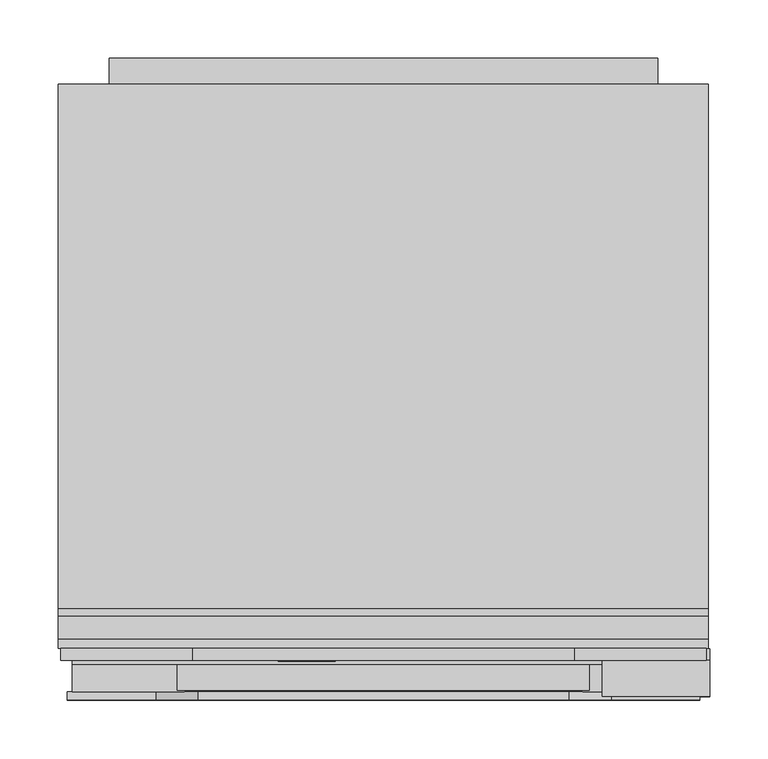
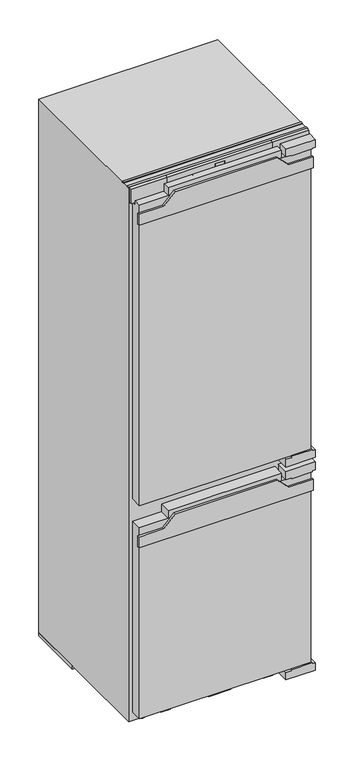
"""IFC4 building model written with IfcOpenShell, lengths in millimetres: proxy geometry, 12102600_ROK_KFNS7734D : 38773406_ROK_12102600_KFNS7734D."""

from ifc_helpers import new_model, si_unit, point, frame, frame_2d, origin, origin_with_axes, place, context, project, spatial, polyline, circle_curve, ellipse_curve, trimmed, segment, composite_curve, outline, extrude, faceted_brep, source, transform, mapped, element, save
from ifc_brep_helpers import plane_surface, cylinder_surface, revolved_surface, extruded_surface, advanced_brep


def specialty_equipment_6a6e2b0e(model_context):
    return source(origin(), model_context, "Body", "SolidModel", [
        advanced_brep(
        [(-46.64, 33.0, 1742.896), (-46.64, 33.0, 1743.704), (-41.288, 33.0, 1743.704), (-50.6, 33.0, 1743.704), (-48.4, 33.0, 1741.0), (-41.424, 33.0, 1742.896), (-43.84, 33.0, 1742.896), (-45.744, 33.0, 1742.0), (-46.64, 33.0, 1744.728), (-46.64, 33.0, 1745.6), (-45.272, 33.0, 1745.6), (-45.272, 33.0, 1744.728), (-46.64, 34.0, 1742.896), (-45.744, 34.0, 1742.0), (-43.84, 34.0, 1742.896), (-41.424, 34.0, 1742.896), (-48.4, 34.0, 1741.0), (-50.6, 34.0, 1743.704), (-41.288, 34.0, 1743.704), (-46.64, 34.0, 1743.704), (-46.64, 34.0, 1744.728), (-45.272, 34.0, 1744.728), (-45.272, 34.0, 1745.6), (-46.64, 34.0, 1745.6)],
        [
            (0, 1),
            (1, 2),
            (2, 3, ellipse_curve(frame((-45.944, 33.0, 1743.704), z_axis=(0.0, -1.0, 0.0), x_axis=(-1.0, 0.0, 0.0)), 4.656, 3.848)),
            (3, 4, circle_curve(frame((-47.5039564, 33.0, 1743.976), z_axis=(0.0, -1.0, 0.0), x_axis=(0.0, 0.0, -1.0)), 3.1079688)),
            (4, 5, circle_curve(frame((-46.0372064, 33.0, 1746.088), z_axis=(0.0, -1.0, 0.0), x_axis=(0.0, 0.0, -1.0)), 5.6098607)),
            (5, 6),
            (6, 7, circle_curve(frame((-45.3529412, 33.0, 1743.64), z_axis=(0.0, 1.0, 0.0), x_axis=(0.0, 0.0, -1.0)), 1.6859795)),
            (7, 0, circle_curve(frame((-45.744, 33.0, 1742.896), z_axis=(0.0, 1.0, 0.0), x_axis=(0.0, 0.0, -1.0)), 0.896)),
            (8, 9),
            (9, 10, circle_curve(frame((-45.956, 33.0, 1745.6), z_axis=(0.0, 1.0, 0.0), x_axis=(0.0, 0.0, -1.0)), 0.684)),
            (10, 11),
            (11, 8),
            (12, 13, circle_curve(frame((-45.744, 34.0, 1742.896), z_axis=(0.0, -1.0, 0.0), x_axis=(0.0, 0.0, -1.0)), 0.896)),
            (13, 14, circle_curve(frame((-45.3529412, 34.0, 1743.64), z_axis=(0.0, -1.0, 0.0), x_axis=(0.0, 0.0, -1.0)), 1.6859795)),
            (14, 15),
            (15, 16, circle_curve(frame((-46.0372064, 34.0, 1746.088), z_axis=(0.0, 1.0, 0.0), x_axis=(0.0, 0.0, -1.0)), 5.6098607)),
            (16, 17, circle_curve(frame((-47.5039564, 34.0, 1743.976), z_axis=(0.0, 1.0, 0.0), x_axis=(0.0, 0.0, -1.0)), 3.1079688)),
            (17, 18, ellipse_curve(frame((-45.944, 34.0, 1743.704), z_axis=(0.0, 1.0, 0.0), x_axis=(-1.0, 0.0, 0.0)), 4.656, 3.848)),
            (18, 19),
            (19, 12),
            (20, 21),
            (21, 22),
            (22, 23, circle_curve(frame((-45.956, 34.0, 1745.6), z_axis=(0.0, -1.0, 0.0), x_axis=(0.0, 0.0, -1.0)), 0.684)),
            (23, 20),
            (0, 12),
            (19, 1),
            (18, 2),
            (5, 15),
            (14, 6),
            (17, 3),
            (13, 7),
            (16, 4),
            (8, 20),
            (23, 9),
            (22, 10),
            (21, 11),
        ],
        [
            plane_surface(frame((-46.64, 33.0, 1743.704), z_axis=(0.0, -1.0, 0.0), x_axis=(0.0, 0.0, 1.0))),
            plane_surface(frame((-46.64, 34.0, 1743.704), z_axis=(0.0, 1.0, 0.0), x_axis=(0.0, 0.0, -1.0))),
            plane_surface(frame((-46.64, 33.0, 1742.896), z_axis=(1.0, 0.0, 0.0), x_axis=(0.0, 1.0, 0.0))),
            plane_surface(frame((-46.64, 33.0, 1743.704), z_axis=(0.0, 0.0, -1.0), x_axis=(0.0, 1.0, 0.0))),
            plane_surface(frame((-41.424, 33.0, 1742.896), z_axis=(0.0, 0.0, 1.0), x_axis=(0.0, 1.0, 0.0))),
            extruded_surface(trimmed(ellipse_curve(frame((-45.944, 35.0, 1743.704), z_axis=(0.0, -1.0, 0.0), x_axis=(-1.0, 0.0, 0.0)), 4.656, 3.848), [point((-41.288, 35.0, 1743.704))], [point((-50.6, 35.0, 1743.704))], True, "CARTESIAN"), (0.0, -1.0, 0.0), 1.0),
            revolved_surface(polyline([(-45.3529412, 34.0, 1741.9540205), (-45.3529412, 33.0, 1741.9540205)]), (-45.3529412, 34.0, 1743.64), (0.0, 1.0, 0.0)),
            revolved_surface(polyline([(-45.744, 34.0, 1742.0), (-45.744, 33.0, 1742.0)]), (-45.744, 34.0, 1742.896), (0.0, 1.0, 0.0)),
            cylinder_surface(frame((-47.5039564, 34.0, 1743.976), z_axis=(0.0, -1.0, 0.0), x_axis=(0.0, 0.0, -1.0)), 3.1079688),
            cylinder_surface(frame((-46.0372064, 34.0, 1746.088), z_axis=(0.0, -1.0, 0.0), x_axis=(0.0, 0.0, -1.0)), 5.6098607),
            plane_surface(frame((-46.64, 33.0, 1744.728), z_axis=(1.0, 0.0, 0.0), x_axis=(0.0, 1.0, 0.0))),
            revolved_surface(polyline([(-45.956, 34.0, 1744.916), (-45.956, 33.0, 1744.916)]), (-45.956, 34.0, 1745.6), (0.0, 1.0, 0.0)),
            plane_surface(frame((-45.272, 33.0, 1745.6), z_axis=(-1.0, 0.0, 0.0), x_axis=(0.0, 1.0, 0.0))),
            plane_surface(frame((-45.272, 33.0, 1744.728), z_axis=(0.0, 0.0, 1.0), x_axis=(0.0, 1.0, 0.0))),
        ],
        [
            (0, [[1, 2, 3, 4, 5, 6, 7, 8], [9, 10, 11, 12]]),
            (1, [[13, 14, 15, 16, 17, 18, 19, 20], [21, 22, 23, 24]]),
            (2, [[-1, 25, -20, 26]]),
            (3, [[-2, -26, -19, 27]]),
            (4, [[-6, 28, -15, 29]]),
            (5, [[-3, -27, -18, 30]]),
            (6, [[-7, -29, -14, 31]]),
            (7, [[-8, -31, -13, -25]]),
            (8, [[-4, -30, -17, 32]]),
            (9, [[-5, -32, -16, -28]]),
            (10, [[-9, 33, -24, 34]]),
            (11, [[-10, -34, -23, 35]]),
            (12, [[-11, -35, -22, 36]]),
            (13, [[-12, -36, -21, -33]]),
        ],
    ),
        advanced_brep(
        [(-63.336, 33.0, 1742.896), (-63.336, 33.0, 1743.704), (-57.984, 33.0, 1743.704), (-67.296, 33.0, 1743.704), (-65.096, 33.0, 1741.0), (-58.12, 33.0, 1742.896), (-60.536, 33.0, 1742.896), (-62.44, 33.0, 1742.0), (-63.336, 33.0, 1744.728), (-63.336, 33.0, 1745.6), (-61.968, 33.0, 1745.6), (-61.968, 33.0, 1744.728), (-63.336, 34.0, 1742.896), (-62.44, 34.0, 1742.0), (-60.536, 34.0, 1742.896), (-58.12, 34.0, 1742.896), (-65.096, 34.0, 1741.0), (-67.296, 34.0, 1743.704), (-57.984, 34.0, 1743.704), (-63.336, 34.0, 1743.704), (-63.336, 34.0, 1744.728), (-61.968, 34.0, 1744.728), (-61.968, 34.0, 1745.6), (-63.336, 34.0, 1745.6)],
        [
            (0, 1),
            (1, 2),
            (2, 3, ellipse_curve(frame((-62.64, 33.0, 1743.704), z_axis=(0.0, -1.0, 0.0), x_axis=(-1.0, 0.0, 0.0)), 4.656, 3.848)),
            (3, 4, circle_curve(frame((-64.1999564, 33.0, 1743.976), z_axis=(0.0, -1.0, 0.0), x_axis=(0.0, 0.0, -1.0)), 3.1079688)),
            (4, 5, circle_curve(frame((-62.7332064, 33.0, 1746.088), z_axis=(0.0, -1.0, 0.0), x_axis=(0.0, 0.0, -1.0)), 5.6098607)),
            (5, 6),
            (6, 7, circle_curve(frame((-62.0489412, 33.0, 1743.64), z_axis=(0.0, 1.0, 0.0), x_axis=(0.0, 0.0, -1.0)), 1.6859795)),
            (7, 0, circle_curve(frame((-62.44, 33.0, 1742.896), z_axis=(0.0, 1.0, 0.0), x_axis=(0.0, 0.0, -1.0)), 0.896)),
            (8, 9),
            (9, 10, circle_curve(frame((-62.652, 33.0, 1745.6), z_axis=(0.0, 1.0, 0.0), x_axis=(0.0, 0.0, -1.0)), 0.684)),
            (10, 11),
            (11, 8),
            (12, 13, circle_curve(frame((-62.44, 34.0, 1742.896), z_axis=(0.0, -1.0, 0.0), x_axis=(0.0, 0.0, -1.0)), 0.896)),
            (13, 14, circle_curve(frame((-62.0489412, 34.0, 1743.64), z_axis=(0.0, -1.0, 0.0), x_axis=(0.0, 0.0, -1.0)), 1.6859795)),
            (14, 15),
            (15, 16, circle_curve(frame((-62.7332064, 34.0, 1746.088), z_axis=(0.0, 1.0, 0.0), x_axis=(0.0, 0.0, -1.0)), 5.6098607)),
            (16, 17, circle_curve(frame((-64.1999564, 34.0, 1743.976), z_axis=(0.0, 1.0, 0.0), x_axis=(0.0, 0.0, -1.0)), 3.1079688)),
            (17, 18, ellipse_curve(frame((-62.64, 34.0, 1743.704), z_axis=(0.0, 1.0, 0.0), x_axis=(-1.0, 0.0, 0.0)), 4.656, 3.848)),
            (18, 19),
            (19, 12),
            (20, 21),
            (21, 22),
            (22, 23, circle_curve(frame((-62.652, 34.0, 1745.6), z_axis=(0.0, -1.0, 0.0), x_axis=(0.0, 0.0, -1.0)), 0.684)),
            (23, 20),
            (0, 12),
            (19, 1),
            (18, 2),
            (5, 15),
            (14, 6),
            (17, 3),
            (13, 7),
            (16, 4),
            (8, 20),
            (23, 9),
            (22, 10),
            (21, 11),
        ],
        [
            plane_surface(frame((-63.336, 33.0, 1743.704), z_axis=(0.0, -1.0, 0.0), x_axis=(0.0, 0.0, 1.0))),
            plane_surface(frame((-63.336, 34.0, 1743.704), z_axis=(0.0, 1.0, 0.0), x_axis=(0.0, 0.0, -1.0))),
            plane_surface(frame((-63.336, 33.0, 1742.896), z_axis=(1.0, 0.0, 0.0), x_axis=(0.0, 1.0, 0.0))),
            plane_surface(frame((-63.336, 33.0, 1743.704), z_axis=(0.0, 0.0, -1.0), x_axis=(0.0, 1.0, 0.0))),
            plane_surface(frame((-58.12, 33.0, 1742.896), z_axis=(0.0, 0.0, 1.0), x_axis=(0.0, 1.0, 0.0))),
            extruded_surface(trimmed(ellipse_curve(frame((-62.64, 35.0, 1743.704), z_axis=(0.0, -1.0, 0.0), x_axis=(-1.0, 0.0, 0.0)), 4.656, 3.848), [point((-57.984, 35.0, 1743.704))], [point((-67.296, 35.0, 1743.704))], True, "CARTESIAN"), (0.0, -1.0, 0.0), 1.0),
            revolved_surface(polyline([(-62.0489412, 34.0, 1741.9540205), (-62.0489412, 33.0, 1741.9540205)]), (-62.0489412, 34.0, 1743.64), (0.0, 1.0, 0.0)),
            revolved_surface(polyline([(-62.44, 34.0, 1742.0), (-62.44, 33.0, 1742.0)]), (-62.44, 34.0, 1742.896), (0.0, 1.0, 0.0)),
            cylinder_surface(frame((-64.1999564, 34.0, 1743.976), z_axis=(0.0, -1.0, 0.0), x_axis=(0.0, 0.0, -1.0)), 3.1079688),
            cylinder_surface(frame((-62.7332064, 34.0, 1746.088), z_axis=(0.0, -1.0, 0.0), x_axis=(0.0, 0.0, -1.0)), 5.6098607),
            plane_surface(frame((-63.336, 33.0, 1744.728), z_axis=(1.0, 0.0, 0.0), x_axis=(0.0, 1.0, 0.0))),
            revolved_surface(polyline([(-62.652, 34.0, 1744.916), (-62.652, 33.0, 1744.916)]), (-62.652, 34.0, 1745.6), (0.0, 1.0, 0.0)),
            plane_surface(frame((-61.968, 33.0, 1745.6), z_axis=(-1.0, 0.0, 0.0), x_axis=(0.0, 1.0, 0.0))),
            plane_surface(frame((-61.968, 33.0, 1744.728), z_axis=(0.0, 0.0, 1.0), x_axis=(0.0, 1.0, 0.0))),
        ],
        [
            (0, [[1, 2, 3, 4, 5, 6, 7, 8], [9, 10, 11, 12]]),
            (1, [[13, 14, 15, 16, 17, 18, 19, 20], [21, 22, 23, 24]]),
            (2, [[-1, 25, -20, 26]]),
            (3, [[-2, -26, -19, 27]]),
            (4, [[-6, 28, -15, 29]]),
            (5, [[-3, -27, -18, 30]]),
            (6, [[-7, -29, -14, 31]]),
            (7, [[-8, -31, -13, -25]]),
            (8, [[-4, -30, -17, 32]]),
            (9, [[-5, -32, -16, -28]]),
            (10, [[-9, 33, -24, 34]]),
            (11, [[-10, -34, -23, 35]]),
            (12, [[-11, -35, -22, 36]]),
            (13, [[-12, -36, -21, -33]]),
        ],
    ),
        extrude(outline(polyline([(1748.528, -72.08), (1747.232, -71.472), (1748.496, -68.76), (1749.792, -69.36), (1748.528, -72.08)])), frame((0.0, 33.0, 0.0), z_axis=(0.0, 1.0, 0.0), x_axis=(0.0, 0.0, 1.0)), (0.0, 0.0, 1.0), 1.0),
        extrude(outline(polyline([(1747.056, -74.056), (1745.624, -74.056), (1745.624, -73.104), (1742.344, -73.104), (1742.344, -74.056), (1741.0, -74.056), (1741.0, -67.744), (1742.344, -67.744), (1742.344, -68.672), (1747.056, -68.672), (1747.056, -74.056)])), frame((0.0, 33.0, 0.0), z_axis=(0.0, 1.0, 0.0), x_axis=(0.0, 0.0, 1.0)), (0.0, 0.0, 1.0), 1.0),
        extrude(outline(polyline([(1747.696, -57.536), (1747.696, -56.576), (1742.344, -56.576), (1742.344, -57.536), (1741.0, -57.536), (1741.0, -51.048), (1742.344, -51.048), (1742.344, -52.032), (1749.0, -52.032), (1749.0, -57.536), (1747.696, -57.536)])), frame((0.0, 33.0, 0.0), z_axis=(0.0, 1.0, 0.0), x_axis=(0.0, 0.0, 1.0)), (0.0, 0.0, 1.0), 1.0),
        extrude(outline(polyline([(1747.696, -90.0), (1747.696, -89.032), (1742.344, -89.032), (1742.344, -90.0), (1741.0, -90.0), (1741.0, -86.48), (1742.344, -86.48), (1742.344, -87.44), (1745.7471247, -87.44), (1741.0, -83.864), (1745.8152223, -80.272), (1742.344, -80.272), (1742.344, -81.256), (1741.0, -81.256), (1741.0, -74.872), (1742.344, -74.872), (1742.344, -75.888), (1747.696, -75.888), (1747.696, -74.872), (1749.0, -74.872), (1749.0, -79.744), (1746.0, -82.08), (1749.0, -84.424), (1749.0, -90.0), (1747.696, -90.0)])), frame((0.0, 33.0, 0.0), z_axis=(0.0, 1.0, 0.0), x_axis=(0.0, 0.0, 1.0)), (0.0, 0.0, 1.0), 1.0),
        extrude(outline(polyline([(607.0, 271.0), (643.0, 271.0), (643.0, 195.0), (679.0, 159.0), (679.0, -159.0), (643.0, -195.0), (643.0, -271.0), (607.0, -271.0), (607.0, 271.0)])), frame((0.0, 0.0, 0.0), z_axis=(0.0, 1.0, 0.0), x_axis=(0.0, 0.0, 1.0)), (0.0, 0.0, 1.0), 7.0),
        extrude(outline(polyline([(1669.0, 271.0), (1705.0, 271.0), (1705.0, 195.0), (1741.0, 159.0), (1741.0, -159.0), (1705.0, -195.0), (1705.0, -271.0), (1669.0, -271.0), (1669.0, 271.0)])), frame((0.0, 0.0, 0.0), z_axis=(0.0, 1.0, 0.0), x_axis=(0.0, 0.0, 1.0)), (0.0, 0.0, 1.0), 7.0),
        extrude(outline(polyline([(736.0, 205.5), (736.0, 187.5), (711.0, 187.5), (711.0, 279.5), (736.0, 279.5), (736.0, 269.5), (740.0, 269.5), (740.0, 205.5), (736.0, 205.5)])), frame((0.0, 3.0, 0.0), z_axis=(0.0, 1.0, 0.0), x_axis=(0.0, 0.0, 1.0)), (0.0, 0.0, 1.0), 41.0),
        extrude(outline(polyline([(176.5, 8.0), (-176.5, 8.0), (-176.5, 30.0), (176.5, 30.0), (176.5, 8.0)])), frame((0.0, 0.0, 1730.0), z_axis=(0.0, 0.0, 1.0), x_axis=(1.0, 0.0, 0.0)), (0.0, 0.0, 1.0), 25.0),
        extrude(outline(polyline([(7.0, 740.0), (7.0, 1730.0), (30.0, 1730.0), (30.0, 1715.0), (44.0, 1715.0), (44.0, 740.0), (7.0, 740.0)])), frame((-266.5, 0.0, 0.0), z_axis=(1.0, 0.0, 0.0), x_axis=(0.0, 1.0, 0.0)), (0.0, 0.0, 1.0), 533.0),
        extrude(outline(polyline([(-176.5, 44.0), (176.5, 44.0), (176.5, 8.0), (-176.5, 8.0), (-176.5, 44.0)])), frame((0.0, 0.0, 667.0), z_axis=(0.0, 0.0, 1.0), x_axis=(1.0, 0.0, 0.0)), (0.0, 0.0, 1.0), 25.0),
        extrude(outline(polyline([(696.0, 279.5), (696.0, 187.5), (670.0, 187.5), (670.0, 205.5), (667.0, 205.5), (667.0, 269.5), (670.0, 269.5), (670.0, 279.5), (696.0, 279.5)])), frame((0.0, 3.0, 0.0), z_axis=(0.0, 1.0, 0.0), x_axis=(0.0, 0.0, 1.0)), (0.0, 0.0, 1.0), 41.0),
        extrude(outline(polyline([(34.0, 205.5), (34.0, 187.5), (10.0, 187.5), (10.0, 279.5), (34.0, 279.5), (34.0, 269.5), (38.0, 269.5), (38.0, 205.5), (34.0, 205.5)])), frame((0.0, 3.0, 0.0), z_axis=(0.0, 1.0, 0.0), x_axis=(0.0, 0.0, 1.0)), (0.0, 0.0, 1.0), 41.0),
        extrude(outline(polyline([(1732.0, 269.5), (1732.0, 279.5), (1757.0, 279.5), (1757.0, 187.5), (1732.0, 187.5), (1732.0, 205.5), (1730.0, 205.5), (1730.0, 269.5), (1732.0, 269.5)])), frame((0.0, 3.0, 0.0), z_axis=(0.0, 1.0, 0.0), x_axis=(0.0, 0.0, 1.0)), (0.0, 0.0, 1.0), 31.0),
        extrude(outline(polyline([(-266.5, 44.0), (266.5, 44.0), (266.5, 7.0), (-266.5, 7.0), (-266.5, 44.0)])), frame((0.0, 0.0, 38.0), z_axis=(0.0, 0.0, 1.0), x_axis=(1.0, 0.0, 0.0)), (0.0, 0.0, 1.0), 629.0),
        faceted_brep([(163.5, 34.0, 1770.0), (-163.5, 34.0, 1770.0), (-163.5, 34.0, 1721.0), (163.5, 34.0, 1721.0), (15.0, 34.0, 1761.0), (15.0, 34.0, 1731.0), (-15.0, 34.0, 1731.0), (-15.0, 34.0, 1761.0), (163.5, 44.0, 1770.0), (163.5, 44.0, 1721.0), (-163.5, 44.0, 1721.0), (-163.5, 44.0, 1770.0), (15.0, 35.0, 1761.0), (-15.0, 35.0, 1761.0), (-15.0, 35.0, 1731.0), (15.0, 35.0, 1731.0)], [[[0, 1, 2, 3], [4, 5, 6, 7]], [[8, 9, 10, 11]], [[0, 3, 9, 8]], [[3, 2, 10, 9]], [[2, 1, 11, 10]], [[1, 0, 8, 11]], [[12, 13, 14, 15]], [[12, 15, 5, 4]], [[15, 14, 6, 5]], [[14, 13, 7, 6]], [[13, 12, 4, 7]]]),
        extrude(outline(polyline([(163.5, 44.0), (276.5, 44.0), (276.5, 34.0), (163.5, 34.0), (163.5, 44.0)])), frame((0.0, 0.0, 1721.0), z_axis=(0.0, 0.0, 1.0), x_axis=(1.0, 0.0, 0.0)), (0.0, 0.0, 1.0), 49.0),
        extrude(outline(polyline([(-276.5, 44.0), (-163.5, 44.0), (-163.5, 34.0), (-276.5, 34.0), (-276.5, 44.0)])), frame((0.0, 0.0, 1721.0), z_axis=(0.0, 0.0, 1.0), x_axis=(1.0, 0.0, 0.0)), (0.0, 0.0, 1.0), 49.0),
        extrude(outline(polyline([(-15.0, 35.0), (15.0, 35.0), (15.0, 34.0), (-15.0, 34.0), (-15.0, 35.0)])), frame((0.0, 0.0, 1731.0), z_axis=(0.0, 0.0, 1.0), x_axis=(1.0, 0.0, 0.0)), (0.0, 0.0, 1.0), 30.0),
        extrude(outline(polyline([(1647.0, -235.0), (27.0, -235.0), (27.0, 235.0), (130.0, 235.0), (130.0, 180.0), (160.0, 180.0), (160.0, 235.0), (1647.0, 235.0), (1647.0, -235.0)])), frame((0.0, 528.0, 0.0), z_axis=(0.0, 1.0, 0.0), x_axis=(0.0, 0.0, 1.0)), (0.0, 0.0, 1.0), 22.0),
        extrude(outline(polyline([(-144.929185, 52.0), (-174.0, 52.0), (-194.6983363, 348.0), (-165.6275213, 348.0), (-144.929185, 52.0)])), origin_with_axes(), (0.0, 0.0, 1.0), 10.0),
        extrude(outline(polyline([(144.929185, 52.0), (165.6275213, 348.0), (194.6983363, 348.0), (174.0, 52.0), (144.929185, 52.0)])), origin_with_axes(), (0.0, 0.0, 1.0), 10.0),
        extrude(outline(polyline([(541.4384039, 149.874164), (548.6647626, 149.874164), (548.6647626, 139.824714), (541.2826236, 139.824714), (541.2826236, 141.0836119), (547.4056247, 141.0836119), (547.4056247, 144.3750411), (541.7614845, 144.3750411), (541.7614845, 145.6249589), (547.4056247, 145.6249589), (547.4056247, 148.6148402), (541.4384039, 148.6148402), (541.4384039, 149.874164)])), frame((193.5, 0.0, 0.0), z_axis=(1.0, 0.0, 0.0), x_axis=(0.0, 1.0, 0.0)), (0.0, 0.0, 1.0), 1.0),
        extrude(outline(polyline([(538.1383052, 149.8716162), (539.399354, 149.8716162), (539.399354, 139.824714), (533.1225656, 139.824714), (533.1225656, 141.0927041), (538.1383052, 141.0927041), (538.1383052, 149.8716162)])), frame((193.5, 0.0, 0.0), z_axis=(1.0, 0.0, 0.0), x_axis=(0.0, 1.0, 0.0)), (0.0, 0.0, 1.0), 1.0),
        advanced_brep(
        [(232.0, 528.0, 145.0), (217.0, 528.0, 145.0), (232.0, 549.5, 145.0), (217.0, 534.5, 145.0), (194.5, 549.5, 145.0), (194.5, 534.5, 145.0)],
        [
            (0, 1, circle_curve(frame((224.5, 528.0, 145.0), z_axis=(0.0, -1.0, 0.0), x_axis=(-1.0, 0.0, 0.0)), 7.5)),
            (1, 0, circle_curve(frame((224.5, 528.0, 145.0), z_axis=(0.0, -1.0, 0.0), x_axis=(-1.0, 0.0, 0.0)), 7.5)),
            (0, 2),
            (2, 3, ellipse_curve(frame((224.5, 542.0, 145.0), z_axis=(0.7071067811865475, -0.7071067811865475, 0.0), x_axis=(-0.7071067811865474, -0.7071067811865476, 0.0)), 10.6066017, 7.5)),
            (3, 1),
            (3, 2, ellipse_curve(frame((224.5, 542.0, 145.0), z_axis=(0.7071067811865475, -0.7071067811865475, 0.0), x_axis=(-0.7071067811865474, -0.7071067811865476, 0.0)), 10.6066017, 7.5)),
            (4, 5, circle_curve(frame((194.5, 542.0, 145.0), z_axis=(-1.0, 0.0, 0.0), x_axis=(0.0, -1.0, 0.0)), 7.5)),
            (5, 4, circle_curve(frame((194.5, 542.0, 145.0), z_axis=(-1.0, 0.0, 0.0), x_axis=(0.0, -1.0, 0.0)), 7.5)),
            (2, 4),
            (5, 3),
        ],
        [
            plane_surface(frame((224.5, 528.0, 145.0), z_axis=(0.0, -1.0, 0.0), x_axis=(0.0, 0.0, 1.0))),
            cylinder_surface(frame((224.5, 528.0, 145.0), z_axis=(0.0, -1.0, 0.0), x_axis=(-1.0, 0.0, 0.0)), 7.5),
            plane_surface(frame((194.5, 542.0, 145.0), z_axis=(-1.0, 0.0, 0.0), x_axis=(0.0, 0.0, 1.0))),
            cylinder_surface(frame((224.5, 542.0, 145.0), z_axis=(1.0, 0.0, 0.0), x_axis=(0.0, -1.0, 0.0)), 7.5),
        ],
        [
            (0, [[1, 2]]),
            (1, [[-1, 3, 4, 5]]),
            (1, [[-2, -5, 6, -3]]),
            (2, [[7, 8]]),
            (3, [[-4, 9, -8, 10]]),
            (3, [[-6, -10, -7, -9]]),
        ],
    ),
        extrude(outline(polyline([(-34.0, 44.0), (34.0, 44.0), (34.0, 35.0), (-34.0, 35.0), (-34.0, 44.0)])), frame((0.0, 0.0, 13.0), z_axis=(0.0, 0.0, 1.0), x_axis=(1.0, 0.0, 0.0)), (0.0, 0.0, 1.0), 19.0),
        extrude(outline(polyline([(278.5, 52.0), (278.5, 44.0), (-278.5, 44.0), (-278.5, 52.0), (278.5, 52.0)])), frame((0.0, 0.0, 1767.0), z_axis=(0.0, 0.0, 1.0), x_axis=(1.0, 0.0, 0.0)), (0.0, 0.0, 1.0), 3.0),
        extrude(outline(polyline([(278.5, 78.0), (278.5, 72.0), (-278.5, 72.0), (-278.5, 78.0), (278.5, 78.0)])), frame((0.0, 0.0, 1767.0), z_axis=(0.0, 0.0, 1.0), x_axis=(1.0, 0.0, 0.0)), (0.0, 0.0, 1.0), 3.0),
        extrude(outline(polyline([(-242.5, 44.0), (-242.5, 490.0), (242.5, 490.0), (242.5, 44.0), (-242.5, 44.0)])), frame((0.0, 0.0, 960.0), z_axis=(0.0, 0.0, 1.0), x_axis=(1.0, 0.0, 0.0)), (0.0, 0.0, 1.0), 3.0),
        extrude(outline(polyline([(-217.5, 312.0), (-217.5, 451.0), (217.5, 451.0), (217.5, 312.0), (-217.5, 312.0)])), frame((0.0, 0.0, 93.0), z_axis=(0.0, 0.0, 1.0), x_axis=(1.0, 0.0, 0.0)), (0.0, 0.0, 1.0), 181.0),
        extrude(outline(composite_curve([segment(trimmed(circle_curve(frame_2d((228.0, 64.0)), 11.0), [point((239.0, 64.0))], [point((217.0, 64.0))], False, "CARTESIAN"), True, "CONTINUOUS"), segment(trimmed(circle_curve(frame_2d((228.0, 64.0)), 11.0), [point((217.0, 64.0))], [point((239.0, 64.0))], False, "CARTESIAN"), True, "CONTINUOUS")], self_intersect=False)), origin_with_axes(), (0.0, 0.0, 1.0), 10.0),
        extrude(outline(composite_curve([segment(trimmed(circle_curve(frame_2d((-228.0, 64.0)), 11.0), [point((-217.0, 64.0))], [point((-239.0, 64.0))], False, "CARTESIAN"), True, "CONTINUOUS"), segment(trimmed(circle_curve(frame_2d((-228.0, 64.0)), 11.0), [point((-239.0, 64.0))], [point((-217.0, 64.0))], False, "CARTESIAN"), True, "CONTINUOUS")], self_intersect=False)), origin_with_axes(), (0.0, 0.0, 1.0), 10.0),
        extrude(outline(polyline([(278.5, 528.0), (278.5, 348.0), (-278.5, 348.0), (-278.5, 528.0), (278.5, 528.0)])), origin_with_axes(), (0.0, 0.0, 1.0), 10.0),
        faceted_brep([(278.5, 528.0, 1767.0), (-278.5, 528.0, 1767.0), (-278.5, 44.0, 1767.0), (278.5, 44.0, 1767.0), (278.5, 528.0, 10.0), (278.5, 44.0, 10.0), (-278.5, 44.0, 10.0), (-278.5, 528.0, 10.0), (242.5, 44.0, 1692.0), (242.5, 44.0, 765.0), (-242.5, 44.0, 765.0), (-242.5, 44.0, 1692.0), (217.5, 44.0, 633.0), (217.5, 44.0, 93.0), (-217.5, 44.0, 93.0), (-217.5, 44.0, 633.0), (242.5, 490.0, 1692.0), (-242.5, 490.0, 1692.0), (-242.5, 490.0, 765.0), (242.5, 490.0, 765.0), (217.5, 451.0, 633.0), (217.5, 451.0, 93.0), (-217.5, 451.0, 633.0), (-217.5, 451.0, 93.0)], [[[0, 1, 2, 3]], [[4, 5, 6, 7]], [[1, 0, 4, 7]], [[2, 1, 7, 6]], [[3, 2, 6, 5], [8, 9, 10, 11], [12, 13, 14, 15]], [[0, 3, 5, 4]], [[16, 17, 18, 19]], [[16, 19, 9, 8]], [[19, 18, 10, 9]], [[18, 17, 11, 10]], [[17, 16, 8, 11]], [[20, 21, 13, 12]], [[22, 15, 14, 23]], [[21, 20, 22, 23]], [[13, 21, 23, 14]], [[20, 12, 15, 22]]]),
    ])


if __name__ == "__main__":
    model = new_model("IFC4")
    model_context = context("Model", 3, world=origin())
    ifc_project = project(units=[si_unit("LENGTHUNIT", "METRE", prefix="MILLI")], contexts=[model_context])
    site = spatial("IfcSite", under=ifc_project)
    building = spatial("IfcBuilding", under=site)
    placement = place(None, origin())
    specialty_equipment_shape = specialty_equipment_6a6e2b0e(model_context)
    element("IfcBuildingElementProxy", 1, Name="12102600_ROK_KFNS7734D : 38773406_ROK_12102600_KFNS7734D", ObjectType="12102600_ROK_KFNS7734D : 38773406_ROK_12102600_KFNS7734D", at=placement, inside=building, context=model_context, shape_type="MappedRepresentation", body=[
        mapped(specialty_equipment_shape, transform((0.0, 0.0, 0.0), x_axis=(1.0, 0.0, 0.0), y_axis=(0.0, 1.0, 0.0), z_axis=(0.0, 0.0, 1.0))),
    ])
    save(model, "model.ifc")
